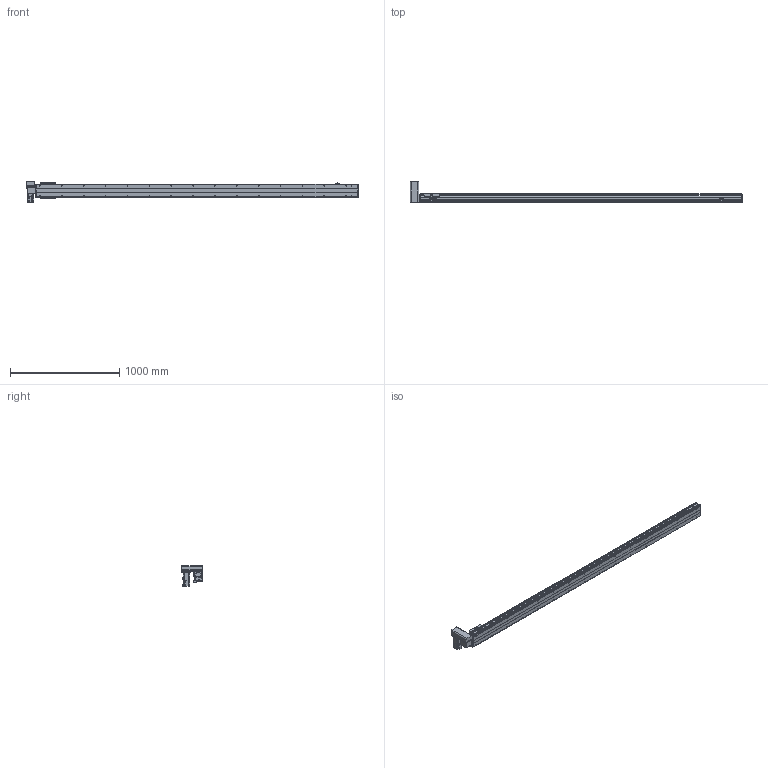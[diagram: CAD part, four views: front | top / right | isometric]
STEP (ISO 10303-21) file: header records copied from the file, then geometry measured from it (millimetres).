
FILE_DESCRIPTION( ( 'STEP AP214' ), '1' );
FILE_NAME( 'x:/temp/worker_27/temp/exporttempdir_6708_256_MYe2s/format_0/PBS120-P40-S2650-RU-T40-C1-N(0).stp', '2022-06-06T00:51:49', ( 'License CC BY-ND 4.0' ), ( 'CADENAS' ), ' ', 'PARTsolutions', ' ' );
FILE_SCHEMA( ( 'AUTOMOTIVE_DESIGN { 1 0 10303 214 1 1 1 1 }' ) );
Length unit declared in the file: millimetre
Products named in the file (7): PBS120-P40-S2650-RU-T40-C1-N(0); _PBS120-S2650()_body; _PBS120T-RU_motors; _T40-p1; _PBS120_sliser; _PBS120_plant; _PBS120_sensor
Assembly tree (8 placements, depth 2):
  PBS120-P40-S2650-RU-T40-C1-N(0)
    _PBS120-S2650()_body
    _PBS120T-RU_motors
    _T40-p1
    _PBS120_sliser
    _PBS120_plant
    _PBS120_sensor  x3
Bounding box: 3036 x 198 x 189.7 mm (x, y, z)
Volume: 11331754.9 mm3; surface area: 2348872.9 mm2
Topology: 8 solids, 8 shells, 876 faces, 2236 edges, 1435 vertices
Faces by surface type: plane 565, cylinder 245, cone 64, torus 2
Full cylindrical faces by diameter (mm): 2.459 x6, 3.242 x4, 4 x2, 4.134 x4, 4.5 x10, 4.917 x36, 5.5 x11, 6 x2, 6.6 x1, 7 x2, 8.5 x4, 9 x4, 12 x1, 14 x1, 30 x2, 40 x1, 50 x2
Entity records: 28668 total; most frequent: DIRECTION 3932, CARTESIAN_POINT 3821, ORIENTED_EDGE 3598, EDGE_CURVE 1799, AXIS2_PLACEMENT_3D 1352, VERTEX_POINT 1241, LINE 1228, VECTOR 1228
